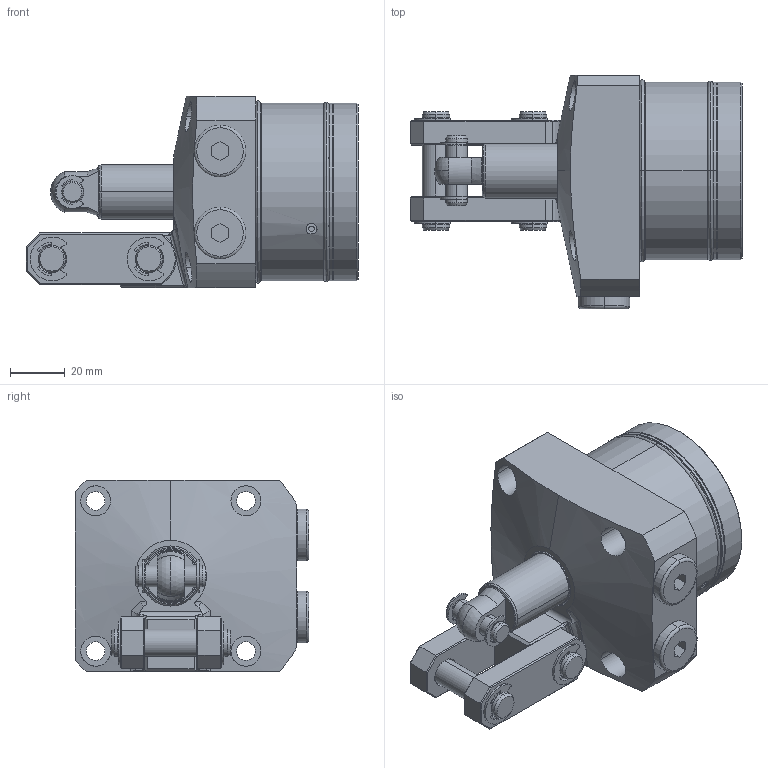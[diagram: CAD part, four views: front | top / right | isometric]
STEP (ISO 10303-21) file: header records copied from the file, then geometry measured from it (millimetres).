
FILE_DESCRIPTION(/* description */ (''),/* implementation_level */ '2;1');
FILE_NAME(/* name */ 'KTPW65-LJ.stp',/* time_stamp */ '2022-11-20T08:36:46+08:00',/* author */ (''),/* organization */ (''),/* preprocessor_version */ 'ST-DEVELOPER v16.7',/* originating_system */ 'SIEMENS PLM Software NX 12.0',/* authorisation */ '');
FILE_SCHEMA (('AP203_CONFIGURATION_CONTROLLED_3D_DESIGN_OF_MECHANICAL_PARTS_AND_ASSEMBLIES_MIM_LF { 1 0 10303 403 2 1 2}'));
Length unit declared in the file: millimetre
Products named in the file (11): KTPW65-LJ-02; KTPW65-LJ-04; KTPW65-LJ-08; KTPW65-LJ-01; KTPW65-LJ-06; KTPW65-LJ-05; KTPW65-LJ-07; KTPW65-LJ-03; KTPW65-LJ-09; KTPW65-LJ-010; LKW0651-CLJ_step
Assembly tree (18 placements, depth 2):
  LKW0651-CLJ_step
    KTPW65-LJ-010  x2
    KTPW65-LJ-09  x2
    KTPW65-LJ-03
    KTPW65-LJ-07  x4
    KTPW65-LJ-05  x2
    KTPW65-LJ-06
    KTPW65-LJ-01
    KTPW65-LJ-08  x2
    KTPW65-LJ-04  x2
    KTPW65-LJ-02
Bounding box: 121.5 x 85.5 x 70 mm (x, y, z)
Volume: 299992.3 mm3; surface area: 61150 mm2
Topology: 20 solids, 20 shells, 645 faces, 1500 edges, 930 vertices
Faces by surface type: cylinder 252, plane 194, torus 110, cone 77, bspline 10, sphere 2
Full cylindrical faces by diameter (mm): 65 x1
Entity records: 13470 total; most frequent: CARTESIAN_POINT 2906, DIRECTION 2082, ORIENTED_EDGE 1768, EDGE_CURVE 884, AXIS2_PLACEMENT_3D 868, VERTEX_POINT 544, CIRCLE 467, EDGE_LOOP 442
